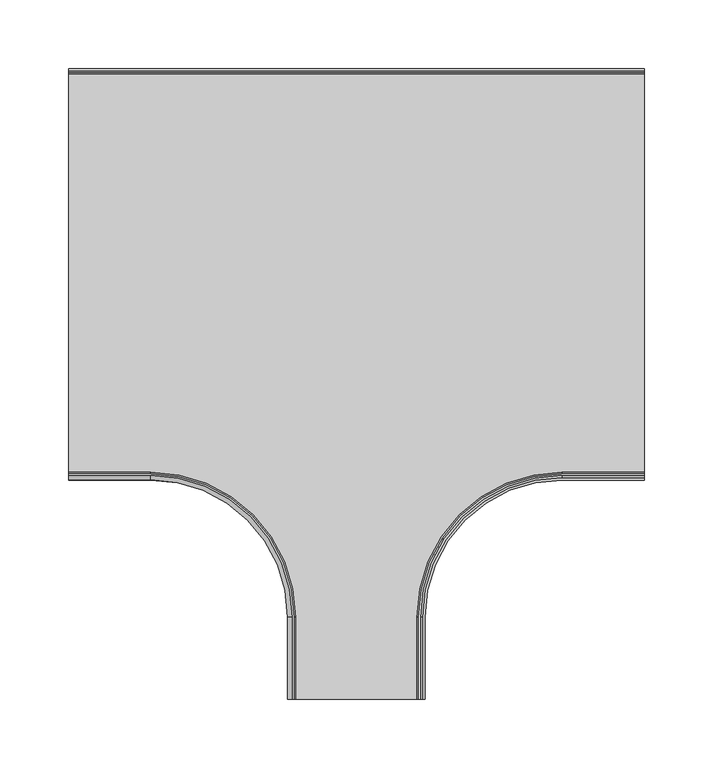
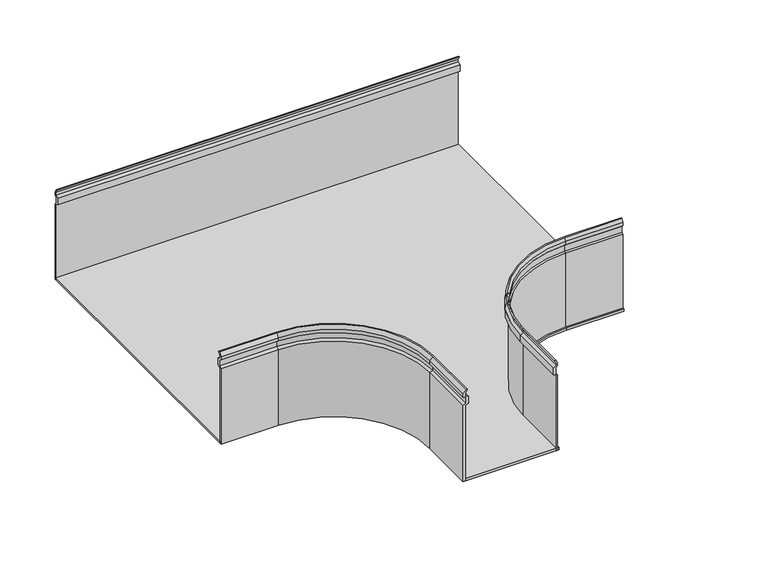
"""IFC4 building model written with IfcOpenShell, lengths in millimetres: cable carrier fitting geometry, TERC_Horizontal Tee_Basortray : Basortray TERC-GS."""

from ifc_helpers import new_model, si_unit, point, frame, frame_2d, origin, place, context, project, spatial, polyline, circle_curve, trimmed, segment, composite_curve, outline, extrude, source, transform, mapped, element, save
from ifc_brep_helpers import plane_surface, cylinder_surface, revolved_surface, advanced_brep


def cable_carrier_fitting_9a046f3b(model_context):
    return source(origin(), model_context, "Body", "SolidModel", [
        extrude(outline(polyline([(149.2, -50.0), (149.2, 33.0765431), (146.1018079, 34.6347352), (146.1018079, 41.8828068), (149.2, 43.440999), (149.2, 46.3595405), (147.2463767, 50.0), (148.3683446, 50.0), (150.0, 46.7016419), (150.0, 43.0267854), (148.6418078, 41.4685933), (148.6418078, 35.0489488), (150.0, 33.4907566), (150.0, -50.0), (149.2, -50.0)])), frame((-210.0, 0.0, 0.0), z_axis=(1.0, 0.0, 0.0), x_axis=(0.0, 1.0, 0.0)), (0.0, 0.0, 1.0), 420.0),
        advanced_brep(
        [(47.46, -310.0, 33.0765431), (47.46, -310.0, -50.0), (48.26, -310.0, -50.0), (48.26, -310.0, 33.4907566), (46.9018079, -310.0, 35.0489488), (46.9018079, -310.0, 41.4685933), (48.26, -310.0, 43.0267854), (48.26, -310.0, 46.7016419), (46.6283446, -310.0, 50.0), (45.5063767, -310.0, 50.0), (47.46, -310.0, 46.3595405), (47.46, -310.0, 43.440999), (44.3618079, -310.0, 41.8828068), (44.3618079, -310.0, 34.6347352), (48.26, -250.0, -50.0), (48.26, -250.0, 33.4907566), (47.46, -250.0, 33.0765431), (47.46, -250.0, -50.0), (150.0, -148.26, 33.4907566), (150.0, -148.26, -50.0), (150.0, -147.46, -50.0), (150.0, -147.46, 33.0765431), (210.0, -147.46, 33.0765431), (210.0, -144.3618079, 34.6347352), (210.0, -144.3618079, 41.8828068), (210.0, -147.46, 43.440999), (210.0, -147.46, 46.3595405), (210.0, -145.5063767, 50.0), (210.0, -146.6283446, 50.0), (210.0, -148.26, 46.7016419), (210.0, -148.26, 43.0267854), (210.0, -146.9018079, 41.4685933), (210.0, -146.9018079, 35.0489488), (210.0, -148.26, 33.4907566), (210.0, -148.26, -50.0), (210.0, -147.46, -50.0), (44.3618079, -250.0, 34.6347352), (44.3618079, -250.0, 41.8828068), (47.46, -250.0, 43.440999), (47.46, -250.0, 46.3595405), (45.5063767, -250.0, 50.0), (46.6283446, -250.0, 50.0), (150.0, -146.6283446, 50.0), (150.0, -145.5063767, 50.0), (48.26, -250.0, 46.7016419), (48.26, -250.0, 43.0267854), (46.9018079, -250.0, 41.4685933), (46.9018079, -250.0, 35.0489488), (150.0, -144.3618079, 34.6347352), (150.0, -144.3618079, 41.8828068), (150.0, -147.46, 43.440999), (150.0, -147.46, 46.3595405), (150.0, -148.26, 46.7016419), (150.0, -148.26, 43.0267854), (150.0, -146.9018079, 41.4685933), (150.0, -146.9018079, 35.0489488)],
        [
            (0, 1),
            (1, 2),
            (2, 3),
            (3, 4),
            (4, 5),
            (5, 6),
            (6, 7),
            (7, 8),
            (8, 9),
            (9, 10),
            (10, 11),
            (11, 12),
            (12, 13),
            (13, 0),
            (2, 14),
            (14, 15),
            (15, 3),
            (0, 16),
            (16, 17),
            (17, 1),
            (18, 15, circle_curve(frame((150.0, -250.0, 33.4907566), z_axis=(0.0, 0.0, 1.0), x_axis=(-1.0, 0.0, 0.0)), 101.74)),
            (14, 19, circle_curve(frame((150.0, -250.0, -50.0), z_axis=(0.0, 0.0, -1.0), x_axis=(-1.0, 0.0, 0.0)), 101.74)),
            (19, 18),
            (20, 17, circle_curve(frame((150.0, -250.0, -50.0), z_axis=(0.0, 0.0, 1.0), x_axis=(-1.0, 0.0, 0.0)), 102.54)),
            (16, 21, circle_curve(frame((150.0, -250.0, 33.0765431), z_axis=(0.0, 0.0, -1.0), x_axis=(-1.0, 0.0, 0.0)), 102.54)),
            (21, 20),
            (22, 23),
            (23, 24),
            (24, 25),
            (25, 26),
            (26, 27),
            (27, 28),
            (28, 29),
            (29, 30),
            (30, 31),
            (31, 32),
            (32, 33),
            (33, 34),
            (34, 35),
            (35, 22),
            (19, 34),
            (33, 18),
            (21, 22),
            (35, 20),
            (13, 36),
            (36, 16),
            (12, 37),
            (37, 36),
            (11, 38),
            (38, 37),
            (10, 39),
            (39, 38),
            (9, 40),
            (40, 39),
            (8, 41),
            (41, 42, circle_curve(frame((150.0, -250.0, 50.0), z_axis=(0.0, 0.0, -1.0), x_axis=(-1.0, 0.0, 0.0)), 103.3716554)),
            (42, 28),
            (27, 43),
            (43, 40, circle_curve(frame((150.0, -250.0, 50.0), z_axis=(0.0, 0.0, 1.0), x_axis=(-1.0, 0.0, 0.0)), 104.4936233)),
            (7, 44),
            (44, 41),
            (6, 45),
            (45, 44),
            (5, 46),
            (46, 45),
            (4, 47),
            (47, 46),
            (15, 47),
            (36, 48, circle_curve(frame((150.0, -250.0, 34.6347352), z_axis=(0.0, 0.0, -1.0), x_axis=(-1.0, 0.0, 0.0)), 105.6381921)),
            (48, 21),
            (37, 49, circle_curve(frame((150.0, -250.0, 41.8828068), z_axis=(0.0, 0.0, -1.0), x_axis=(-1.0, 0.0, 0.0)), 105.6381921)),
            (49, 48),
            (38, 50, circle_curve(frame((150.0, -250.0, 43.440999), z_axis=(0.0, 0.0, -1.0), x_axis=(-1.0, 0.0, 0.0)), 102.54)),
            (50, 49),
            (39, 51, circle_curve(frame((150.0, -250.0, 46.3595405), z_axis=(0.0, 0.0, -1.0), x_axis=(-1.0, 0.0, 0.0)), 102.54)),
            (51, 50),
            (43, 51),
            (44, 52, circle_curve(frame((150.0, -250.0, 46.7016419), z_axis=(0.0, 0.0, -1.0), x_axis=(-1.0, 0.0, 0.0)), 101.74)),
            (52, 42),
            (45, 53, circle_curve(frame((150.0, -250.0, 43.0267854), z_axis=(0.0, 0.0, -1.0), x_axis=(-1.0, 0.0, 0.0)), 101.74)),
            (53, 52),
            (46, 54, circle_curve(frame((150.0, -250.0, 41.4685933), z_axis=(0.0, 0.0, -1.0), x_axis=(-1.0, 0.0, 0.0)), 103.0981921)),
            (54, 53),
            (47, 55, circle_curve(frame((150.0, -250.0, 35.0489488), z_axis=(0.0, 0.0, -1.0), x_axis=(-1.0, 0.0, 0.0)), 103.0981921)),
            (55, 54),
            (18, 55),
            (48, 23),
            (49, 24),
            (50, 25),
            (51, 26),
            (52, 29),
            (53, 30),
            (54, 31),
            (55, 32),
        ],
        [
            plane_surface(frame((47.46, -310.0, 0.0), z_axis=(0.0, -1.0, 0.0), x_axis=(0.0, 0.0, 1.0))),
            plane_surface(frame((48.26, -310.0, -50.0), z_axis=(1.0, 0.0, 0.0), x_axis=(0.0, 1.0, 0.0))),
            plane_surface(frame((47.46, -310.0, 33.0765431), z_axis=(-1.0, 0.0, 0.0), x_axis=(0.0, 1.0, 0.0))),
            revolved_surface(polyline([(48.260000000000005, -250.0, -50.0), (48.260000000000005, -250.0, 33.4907566)]), (150.0, -250.0, 0.0), (0.0, 0.0, -1.0)),
            cylinder_surface(frame((150.0, -250.0, 0.0), z_axis=(0.0, 0.0, -1.0), x_axis=(-1.0, 0.0, 0.0)), 102.54),
            plane_surface(frame((210.0, -147.46, 0.0), z_axis=(1.0, 0.0, 0.0), x_axis=(0.0, 0.0, 1.0))),
            plane_surface(frame((150.0, -148.26, -50.0), z_axis=(0.0, -1.0, 0.0), x_axis=(1.0, 0.0, 0.0))),
            plane_surface(frame((150.0, -147.46, 33.0765431), z_axis=(0.0, 1.0, 0.0), x_axis=(1.0, 0.0, 0.0))),
            plane_surface(frame((44.3618079, -310.0, 34.6347352), z_axis=(-0.4493106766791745, 0.0, -0.8933755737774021), x_axis=(0.0, 1.0, 0.0))),
            plane_surface(frame((44.3618079, -310.0, 41.8828068), z_axis=(-1.0, 0.0, 0.0), x_axis=(0.0, 1.0, 0.0))),
            plane_surface(frame((47.46, -310.0, 43.440999), z_axis=(-0.4493106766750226, 0.0, 0.8933755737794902), x_axis=(0.0, 1.0, 0.0))),
            plane_surface(frame((47.46, -310.0, 46.3595405), z_axis=(-1.0, 0.0, 0.0), x_axis=(0.0, 1.0, 0.0))),
            plane_surface(frame((45.5063767, -310.0, 50.0), z_axis=(-0.8811394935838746, 0.0, -0.4728564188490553), x_axis=(0.0, 1.0, 0.0))),
            plane_surface(frame((46.6283446, -310.0, 50.0), z_axis=(0.0, 0.0, 1.0), x_axis=(0.0, 1.0, 0.0))),
            plane_surface(frame((48.26, -310.0, 46.7016419), z_axis=(0.8963238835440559, 0.0, 0.4433999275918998), x_axis=(0.0, 1.0, 0.0))),
            plane_surface(frame((48.26, -310.0, 43.0267854), z_axis=(1.0, 0.0, 0.0), x_axis=(0.0, 1.0, 0.0))),
            plane_surface(frame((46.9018079, -310.0, 41.4685933), z_axis=(0.7538282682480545, 0.0, -0.6570714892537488), x_axis=(0.0, 1.0, 0.0))),
            plane_surface(frame((46.9018079, -310.0, 35.0489488), z_axis=(1.0, 0.0, 0.0), x_axis=(0.0, 1.0, 0.0))),
            plane_surface(frame((48.26, -310.0, 33.4907566), z_axis=(0.7538282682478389, 0.0, 0.6570714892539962), x_axis=(0.0, 1.0, 0.0))),
            revolved_surface(polyline([(44.3618079, -250.0, 34.6347352), (47.46, -250.0, 33.0765431)]), (150.0, -250.0, 0.0), (0.0, 0.0, -1.0)),
            cylinder_surface(frame((150.0, -250.0, 0.0), z_axis=(0.0, 0.0, -1.0), x_axis=(-1.0, 0.0, 0.0)), 105.6381921),
            revolved_surface(polyline([(47.46, -250.0, 43.440999), (44.3618079, -250.0, 41.8828068)]), (150.0, -250.0, 0.0), (0.0, 0.0, -1.0)),
            revolved_surface(polyline([(45.5063767, -250.0, 50.0), (47.46, -250.0, 46.3595405)]), (150.0, -250.0, 0.0), (0.0, 0.0, -1.0)),
            revolved_surface(polyline([(48.26, -250.0, 46.7016419), (46.6283446, -250.0, 50.0)]), (150.0, -250.0, 0.0), (0.0, 0.0, -1.0)),
            revolved_surface(polyline([(48.260000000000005, -250.0, 43.0267854), (48.260000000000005, -250.0, 46.7016419)]), (150.0, -250.0, 0.0), (0.0, 0.0, -1.0)),
            revolved_surface(polyline([(46.9018079, -250.0, 41.4685933), (48.26, -250.0, 43.0267854)]), (150.0, -250.0, 0.0), (0.0, 0.0, -1.0)),
            revolved_surface(polyline([(46.901807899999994, -250.0, 35.0489488), (46.901807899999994, -250.0, 41.4685933)]), (150.0, -250.0, 0.0), (0.0, 0.0, -1.0)),
            revolved_surface(polyline([(48.26, -250.0, 33.4907566), (46.9018079, -250.0, 35.0489488)]), (150.0, -250.0, 0.0), (0.0, 0.0, -1.0)),
            plane_surface(frame((150.0, -144.3618079, 34.6347352), z_axis=(0.0, 0.4493106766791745, -0.8933755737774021), x_axis=(1.0, 0.0, 0.0))),
            plane_surface(frame((150.0, -144.3618079, 41.8828068), z_axis=(0.0, 1.0, 0.0), x_axis=(1.0, 0.0, 0.0))),
            plane_surface(frame((150.0, -147.46, 43.440999), z_axis=(0.0, 0.4493106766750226, 0.8933755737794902), x_axis=(1.0, 0.0, 0.0))),
            plane_surface(frame((150.0, -147.46, 46.3595405), z_axis=(0.0, 1.0, 0.0), x_axis=(1.0, 0.0, 0.0))),
            plane_surface(frame((150.0, -145.5063767, 50.0), z_axis=(0.0, 0.8811394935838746, -0.4728564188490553), x_axis=(1.0, 0.0, 0.0))),
            plane_surface(frame((150.0, -148.26, 46.7016419), z_axis=(0.0, -0.8963238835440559, 0.4433999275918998), x_axis=(1.0, 0.0, 0.0))),
            plane_surface(frame((150.0, -148.26, 43.0267854), z_axis=(0.0, -1.0, 0.0), x_axis=(1.0, 0.0, 0.0))),
            plane_surface(frame((150.0, -146.9018079, 41.4685933), z_axis=(0.0, -0.7538282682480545, -0.6570714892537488), x_axis=(1.0, 0.0, 0.0))),
            plane_surface(frame((150.0, -146.9018079, 35.0489488), z_axis=(0.0, -1.0, 0.0), x_axis=(1.0, 0.0, 0.0))),
            plane_surface(frame((150.0, -148.26, 33.4907566), z_axis=(0.0, -0.7538282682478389, 0.6570714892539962), x_axis=(1.0, 0.0, 0.0))),
            plane_surface(frame((47.46, -310.0, -50.0), z_axis=(0.0, 0.0, -1.0), x_axis=(0.0, 1.0, 0.0))),
        ],
        [
            (0, [[1, 2, 3, 4, 5, 6, 7, 8, 9, 10, 11, 12, 13, 14]]),
            (1, [[-3, 15, 16, 17]]),
            (2, [[-1, 18, 19, 20]]),
            (3, [[21, -16, 22, 23]]),
            (4, [[24, -19, 25, 26]]),
            (5, [[27, 28, 29, 30, 31, 32, 33, 34, 35, 36, 37, 38, 39, 40]]),
            (6, [[-23, 41, -38, 42]]),
            (7, [[-26, 43, -40, 44]]),
            (8, [[-14, 45, 46, -18]]),
            (9, [[-13, 47, 48, -45]]),
            (10, [[-12, 49, 50, -47]]),
            (11, [[-11, 51, 52, -49]]),
            (12, [[-10, 53, 54, -51]]),
            (13, [[-9, 55, 56, 57, -32, 58, 59, -53]]),
            (14, [[-8, 60, 61, -55]]),
            (15, [[-7, 62, 63, -60]]),
            (16, [[-6, 64, 65, -62]]),
            (17, [[-5, 66, 67, -64]]),
            (18, [[-4, -17, 68, -66]]),
            (19, [[-25, -46, 69, 70]]),
            (20, [[-69, -48, 71, 72]]),
            (21, [[-71, -50, 73, 74]]),
            (4, [[-73, -52, 75, 76]]),
            (22, [[-75, -54, -59, 77]]),
            (23, [[-56, -61, 78, 79]]),
            (24, [[-78, -63, 80, 81]]),
            (25, [[-80, -65, 82, 83]]),
            (26, [[-82, -67, 84, 85]]),
            (27, [[-84, -68, -21, 86]]),
            (28, [[-70, 87, -27, -43]]),
            (29, [[-72, 88, -28, -87]]),
            (30, [[-74, 89, -29, -88]]),
            (31, [[-76, 90, -30, -89]]),
            (32, [[-77, -58, -31, -90]]),
            (33, [[-79, 91, -33, -57]]),
            (34, [[-81, 92, -34, -91]]),
            (35, [[-83, 93, -35, -92]]),
            (36, [[-85, 94, -36, -93]]),
            (37, [[-86, -42, -37, -94]]),
            (38, [[-2, -20, -24, -44, -39, -41, -22, -15]]),
        ],
    ),
        advanced_brep(
        [(-47.46, -310.0, 33.0765431), (-44.3618079, -310.0, 34.6347352), (-44.3618079, -310.0, 41.8828068), (-47.46, -310.0, 43.440999), (-47.46, -310.0, 46.3595405), (-45.5063767, -310.0, 50.0), (-46.6283446, -310.0, 50.0), (-50.0, -310.0, 46.7016419), (-50.0, -310.0, 43.0267854), (-46.9018079, -310.0, 41.4685933), (-46.9018079, -310.0, 35.0489488), (-50.0, -310.0, 33.4907566), (-50.0, -310.0, -50.0), (-47.46, -310.0, -50.0), (-50.0, -250.0, 33.4907566), (-50.0, -250.0, -50.0), (-47.46, -250.0, -50.0), (-47.46, -250.0, 33.0765431), (-150.0, -150.0, -50.0), (-150.0, -150.0, 33.4907566), (-150.0, -147.46, 33.0765431), (-150.0, -147.46, -50.0), (-210.0, -147.46, 33.0765431), (-210.0, -147.46, -50.0), (-210.0, -150.0, -50.0), (-210.0, -150.0, 33.4907566), (-210.0, -146.9018079, 35.0489488), (-210.0, -146.9018079, 41.4685933), (-210.0, -150.0, 43.0267854), (-210.0, -150.0, 46.7016419), (-210.0, -146.6283446, 50.0), (-210.0, -145.5063767, 50.0), (-210.0, -147.46, 46.3595405), (-210.0, -147.46, 43.440999), (-210.0, -144.3618079, 41.8828068), (-210.0, -144.3618079, 34.6347352), (-44.3618079, -250.0, 34.6347352), (-44.3618079, -250.0, 41.8828068), (-47.46, -250.0, 43.440999), (-47.46, -250.0, 46.3595405), (-45.5063767, -250.0, 50.0), (-150.0, -145.5063767, 50.0), (-150.0, -146.6283446, 50.0), (-46.6283446, -250.0, 50.0), (-50.0, -250.0, 46.7016419), (-50.0, -250.0, 43.0267854), (-46.9018079, -250.0, 41.4685933), (-46.9018079, -250.0, 35.0489488), (-150.0, -144.3618079, 34.6347352), (-150.0, -144.3618079, 41.8828068), (-150.0, -147.46, 43.440999), (-150.0, -147.46, 46.3595405), (-150.0, -150.0, 46.7016419), (-150.0, -150.0, 43.0267854), (-150.0, -146.9018079, 41.4685933), (-150.0, -146.9018079, 35.0489488)],
        [
            (0, 1),
            (1, 2),
            (2, 3),
            (3, 4),
            (4, 5),
            (5, 6),
            (6, 7),
            (7, 8),
            (8, 9),
            (9, 10),
            (10, 11),
            (11, 12),
            (12, 13),
            (13, 0),
            (11, 14),
            (14, 15),
            (15, 12),
            (13, 16),
            (16, 17),
            (17, 0),
            (18, 15, circle_curve(frame((-150.0, -250.0, -50.0), z_axis=(0.0, 0.0, -1.0), x_axis=(1.0, 0.0, 0.0)), 100.0)),
            (14, 19, circle_curve(frame((-150.0, -250.0, 33.4907566), z_axis=(0.0, 0.0, 1.0), x_axis=(1.0, 0.0, 0.0)), 100.0)),
            (19, 18),
            (20, 17, circle_curve(frame((-150.0, -250.0, 33.0765431), z_axis=(0.0, 0.0, -1.0), x_axis=(1.0, 0.0, 0.0)), 102.54)),
            (16, 21, circle_curve(frame((-150.0, -250.0, -50.0), z_axis=(0.0, 0.0, 1.0), x_axis=(1.0, 0.0, 0.0)), 102.54)),
            (21, 20),
            (22, 23),
            (23, 24),
            (24, 25),
            (25, 26),
            (26, 27),
            (27, 28),
            (28, 29),
            (29, 30),
            (30, 31),
            (31, 32),
            (32, 33),
            (33, 34),
            (34, 35),
            (35, 22),
            (19, 25),
            (24, 18),
            (21, 23),
            (22, 20),
            (17, 36),
            (36, 1),
            (36, 37),
            (37, 2),
            (37, 38),
            (38, 3),
            (38, 39),
            (39, 4),
            (39, 40),
            (40, 5),
            (40, 41, circle_curve(frame((-150.0, -250.0, 50.0), z_axis=(0.0, 0.0, 1.0), x_axis=(1.0, 0.0, 0.0)), 104.4936233)),
            (41, 31),
            (30, 42),
            (42, 43, circle_curve(frame((-150.0, -250.0, 50.0), z_axis=(0.0, 0.0, -1.0), x_axis=(1.0, 0.0, 0.0)), 103.3716554)),
            (43, 6),
            (43, 44),
            (44, 7),
            (44, 45),
            (45, 8),
            (45, 46),
            (46, 9),
            (46, 47),
            (47, 10),
            (47, 14),
            (48, 36, circle_curve(frame((-150.0, -250.0, 34.6347352), z_axis=(0.0, 0.0, -1.0), x_axis=(1.0, 0.0, 0.0)), 105.6381921)),
            (20, 48),
            (49, 37, circle_curve(frame((-150.0, -250.0, 41.8828068), z_axis=(0.0, 0.0, -1.0), x_axis=(1.0, 0.0, 0.0)), 105.6381921)),
            (48, 49),
            (50, 38, circle_curve(frame((-150.0, -250.0, 43.440999), z_axis=(0.0, 0.0, -1.0), x_axis=(1.0, 0.0, 0.0)), 102.54)),
            (49, 50),
            (51, 39, circle_curve(frame((-150.0, -250.0, 46.3595405), z_axis=(0.0, 0.0, -1.0), x_axis=(1.0, 0.0, 0.0)), 102.54)),
            (50, 51),
            (51, 41),
            (52, 44, circle_curve(frame((-150.0, -250.0, 46.7016419), z_axis=(0.0, 0.0, -1.0), x_axis=(1.0, 0.0, 0.0)), 100.0)),
            (42, 52),
            (53, 45, circle_curve(frame((-150.0, -250.0, 43.0267854), z_axis=(0.0, 0.0, -1.0), x_axis=(1.0, 0.0, 0.0)), 100.0)),
            (52, 53),
            (54, 46, circle_curve(frame((-150.0, -250.0, 41.4685933), z_axis=(0.0, 0.0, -1.0), x_axis=(1.0, 0.0, 0.0)), 103.0981921)),
            (53, 54),
            (55, 47, circle_curve(frame((-150.0, -250.0, 35.0489488), z_axis=(0.0, 0.0, -1.0), x_axis=(1.0, 0.0, 0.0)), 103.0981921)),
            (54, 55),
            (55, 19),
            (35, 48),
            (34, 49),
            (33, 50),
            (32, 51),
            (29, 52),
            (28, 53),
            (27, 54),
            (26, 55),
        ],
        [
            plane_surface(frame((-47.46, -310.0, 0.0), z_axis=(0.0, -1.0, 0.0), x_axis=(0.0, 0.0, 1.0))),
            plane_surface(frame((-50.0, -310.0, 33.4907566), z_axis=(-1.0, 0.0, 0.0), x_axis=(0.0, 1.0, 0.0))),
            plane_surface(frame((-47.46, -310.0, -50.0), z_axis=(1.0, 0.0, 0.0), x_axis=(0.0, 1.0, 0.0))),
            revolved_surface(polyline([(-50.0, -250.0, 33.4907566), (-50.0, -250.0, -50.0)]), (-150.0, -250.0, 0.0), (0.0, 0.0, 1.0)),
            cylinder_surface(frame((-150.0, -250.0, 0.0), z_axis=(0.0, 0.0, 1.0), x_axis=(1.0, 0.0, 0.0)), 102.54),
            plane_surface(frame((-210.0, -147.46, 0.0), z_axis=(-1.0, 0.0, 0.0), x_axis=(0.0, 0.0, 1.0))),
            plane_surface(frame((-150.0, -150.0, 33.4907566), z_axis=(0.0, -1.0, 0.0), x_axis=(-1.0, 0.0, 0.0))),
            plane_surface(frame((-150.0, -147.46, -50.0), z_axis=(0.0, 1.0, 0.0), x_axis=(-1.0, 0.0, 0.0))),
            plane_surface(frame((-47.46, -310.0, 33.0765431), z_axis=(0.4493106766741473, 0.0, -0.8933755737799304), x_axis=(0.0, 1.0, 0.0))),
            plane_surface(frame((-44.3618079, -310.0, 34.6347352), z_axis=(1.0, 0.0, 0.0), x_axis=(0.0, 1.0, 0.0))),
            plane_surface(frame((-44.3618079, -310.0, 41.8828068), z_axis=(0.4493106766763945, 0.0, 0.8933755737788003), x_axis=(0.0, 1.0, 0.0))),
            plane_surface(frame((-47.46, -310.0, 43.440999), z_axis=(1.0, 0.0, 0.0), x_axis=(0.0, 1.0, 0.0))),
            plane_surface(frame((-47.46, -310.0, 46.3595405), z_axis=(0.8811394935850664, 0.0, -0.4728564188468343), x_axis=(0.0, 1.0, 0.0))),
            plane_surface(frame((-45.5063767, -310.0, 50.0), z_axis=(0.0, 0.0, 1.0), x_axis=(0.0, 1.0, 0.0))),
            plane_surface(frame((-46.6283446, -310.0, 50.0), z_axis=(-0.6992941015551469, 0.0, 0.7148340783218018), x_axis=(0.0, 1.0, 0.0))),
            plane_surface(frame((-50.0, -310.0, 46.7016419), z_axis=(-1.0, 0.0, 0.0), x_axis=(0.0, 1.0, 0.0))),
            plane_surface(frame((-50.0, -310.0, 43.0267854), z_axis=(-0.4493106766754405, 0.0, -0.8933755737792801), x_axis=(0.0, 1.0, 0.0))),
            plane_surface(frame((-46.9018079, -310.0, 41.4685933), z_axis=(-1.0, 0.0, 0.0), x_axis=(0.0, 1.0, 0.0))),
            plane_surface(frame((-46.9018079, -310.0, 35.0489488), z_axis=(-0.44931067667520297, 0.0, 0.8933755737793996), x_axis=(0.0, 1.0, 0.0))),
            revolved_surface(polyline([(-47.46, -250.0, 33.0765431), (-44.3618079, -250.0, 34.6347352)]), (-150.0, -250.0, 0.0), (0.0, 0.0, 1.0)),
            cylinder_surface(frame((-150.0, -250.0, 0.0), z_axis=(0.0, 0.0, 1.0), x_axis=(1.0, 0.0, 0.0)), 105.6381921),
            revolved_surface(polyline([(-44.3618079, -250.0, 41.8828068), (-47.46, -250.0, 43.440999)]), (-150.0, -250.0, 0.0), (0.0, 0.0, 1.0)),
            revolved_surface(polyline([(-47.46, -250.0, 46.3595405), (-45.5063767, -250.0, 50.0)]), (-150.0, -250.0, 0.0), (0.0, 0.0, 1.0)),
            revolved_surface(polyline([(-46.6283446, -250.0, 50.0), (-50.0, -250.0, 46.7016419)]), (-150.0, -250.0, 0.0), (0.0, 0.0, 1.0)),
            revolved_surface(polyline([(-50.0, -250.0, 46.7016419), (-50.0, -250.0, 43.0267854)]), (-150.0, -250.0, 0.0), (0.0, 0.0, 1.0)),
            revolved_surface(polyline([(-50.0, -250.0, 43.0267854), (-46.9018079, -250.0, 41.4685933)]), (-150.0, -250.0, 0.0), (0.0, 0.0, 1.0)),
            revolved_surface(polyline([(-46.901807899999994, -250.0, 41.4685933), (-46.901807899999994, -250.0, 35.0489488)]), (-150.0, -250.0, 0.0), (0.0, 0.0, 1.0)),
            revolved_surface(polyline([(-46.9018079, -250.0, 35.0489488), (-50.0, -250.0, 33.4907566)]), (-150.0, -250.0, 0.0), (0.0, 0.0, 1.0)),
            plane_surface(frame((-150.0, -147.46, 33.0765431), z_axis=(0.0, 0.4493106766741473, -0.8933755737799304), x_axis=(-1.0, 0.0, 0.0))),
            plane_surface(frame((-150.0, -144.3618079, 34.6347352), z_axis=(0.0, 1.0, 0.0), x_axis=(-1.0, 0.0, 0.0))),
            plane_surface(frame((-150.0, -144.3618079, 41.8828068), z_axis=(0.0, 0.4493106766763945, 0.8933755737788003), x_axis=(-1.0, 0.0, 0.0))),
            plane_surface(frame((-150.0, -147.46, 43.440999), z_axis=(0.0, 1.0, 0.0), x_axis=(-1.0, 0.0, 0.0))),
            plane_surface(frame((-150.0, -147.46, 46.3595405), z_axis=(0.0, 0.8811394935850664, -0.4728564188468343), x_axis=(-1.0, 0.0, 0.0))),
            plane_surface(frame((-150.0, -146.6283446, 50.0), z_axis=(0.0, -0.6992941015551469, 0.7148340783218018), x_axis=(-1.0, 0.0, 0.0))),
            plane_surface(frame((-150.0, -150.0, 46.7016419), z_axis=(0.0, -1.0, 0.0), x_axis=(-1.0, 0.0, 0.0))),
            plane_surface(frame((-150.0, -150.0, 43.0267854), z_axis=(0.0, -0.4493106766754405, -0.8933755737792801), x_axis=(-1.0, 0.0, 0.0))),
            plane_surface(frame((-150.0, -146.9018079, 41.4685933), z_axis=(0.0, -1.0, 0.0), x_axis=(-1.0, 0.0, 0.0))),
            plane_surface(frame((-150.0, -146.9018079, 35.0489488), z_axis=(0.0, -0.44931067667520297, 0.8933755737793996), x_axis=(-1.0, 0.0, 0.0))),
            plane_surface(frame((-50.0, -310.0, -50.0), z_axis=(0.0, 0.0, -1.0), x_axis=(0.0, 1.0, 0.0))),
        ],
        [
            (0, [[1, 2, 3, 4, 5, 6, 7, 8, 9, 10, 11, 12, 13, 14]]),
            (1, [[-12, 15, 16, 17]]),
            (2, [[-14, 18, 19, 20]]),
            (3, [[21, -16, 22, 23]]),
            (4, [[24, -19, 25, 26]]),
            (5, [[27, 28, 29, 30, 31, 32, 33, 34, 35, 36, 37, 38, 39, 40]]),
            (6, [[-23, 41, -29, 42]]),
            (7, [[-26, 43, -27, 44]]),
            (8, [[-1, -20, 45, 46]]),
            (9, [[-2, -46, 47, 48]]),
            (10, [[-3, -48, 49, 50]]),
            (11, [[-4, -50, 51, 52]]),
            (12, [[-5, -52, 53, 54]]),
            (13, [[-6, -54, 55, 56, -35, 57, 58, 59]]),
            (14, [[-7, -59, 60, 61]]),
            (15, [[-8, -61, 62, 63]]),
            (16, [[-9, -63, 64, 65]]),
            (17, [[-10, -65, 66, 67]]),
            (18, [[-11, -67, 68, -15]]),
            (19, [[69, -45, -24, 70]]),
            (20, [[71, -47, -69, 72]]),
            (21, [[73, -49, -71, 74]]),
            (4, [[75, -51, -73, 76]]),
            (22, [[-55, -53, -75, 77]]),
            (23, [[78, -60, -58, 79]]),
            (24, [[80, -62, -78, 81]]),
            (25, [[82, -64, -80, 83]]),
            (26, [[84, -66, -82, 85]]),
            (27, [[-22, -68, -84, 86]]),
            (28, [[-70, -44, -40, 87]]),
            (29, [[-72, -87, -39, 88]]),
            (30, [[-74, -88, -38, 89]]),
            (31, [[-76, -89, -37, 90]]),
            (32, [[-77, -90, -36, -56]]),
            (33, [[-79, -57, -34, 91]]),
            (34, [[-81, -91, -33, 92]]),
            (35, [[-83, -92, -32, 93]]),
            (36, [[-85, -93, -31, 94]]),
            (37, [[-86, -94, -30, -41]]),
            (38, [[-13, -17, -21, -42, -28, -43, -25, -18]]),
        ],
    ),
        extrude(outline(composite_curve([segment(trimmed(circle_curve(frame_2d((-150.0, -250.0)), 100.0), [point((-50.0, -250.0))], [point((-150.0, -150.0))], True, "CARTESIAN"), True, "CONTINUOUS"), segment(polyline([(-150.0, -150.0), (-210.0, -150.0), (-210.0, 150.0), (210.0, 150.0), (210.0, -150.0), (150.0, -150.0)]), True, "CONTINUOUS"), segment(trimmed(circle_curve(frame_2d((150.0, -250.0)), 100.0), [point((150.0, -150.0))], [point((50.0, -250.0))], True, "CARTESIAN"), True, "CONTINUOUS"), segment(polyline([(50.0, -250.0), (50.0, -310.0), (-50.0, -310.0), (-50.0, -250.0)]), True, "CONTINUOUS")], self_intersect=False)), frame((0.0, 0.0, -50.0), z_axis=(0.0, 0.0, 1.0), x_axis=(1.0, 0.0, 0.0)), (0.0, 0.0, 1.0), 2.54),
    ])


if __name__ == "__main__":
    model = new_model("IFC4")
    model_context = context("Model", 3, world=origin())
    ifc_project = project(units=[si_unit("LENGTHUNIT", "METRE", prefix="MILLI")], contexts=[model_context])
    site = spatial("IfcSite", under=ifc_project)
    building = spatial("IfcBuilding", under=site)
    placement = place(None, origin())
    cable_carrier_fitting_shape = cable_carrier_fitting_9a046f3b(model_context)
    element("IfcCableCarrierFitting", 1, ObjectType="TERC_Horizontal Tee_Basortray : Basortray TERC-GS", at=placement, inside=building, context=model_context, shape_type="MappedRepresentation", body=[
        mapped(cable_carrier_fitting_shape, transform((0.0, 0.0, 0.0), x_axis=(1.0, 0.0, 0.0), y_axis=(0.0, 1.0, 0.0), z_axis=(0.0, 0.0, 1.0))),
    ])
    save(model, "model.ifc")
